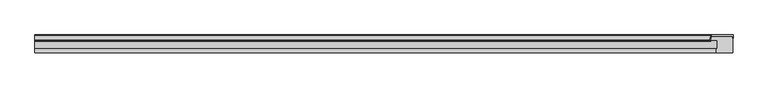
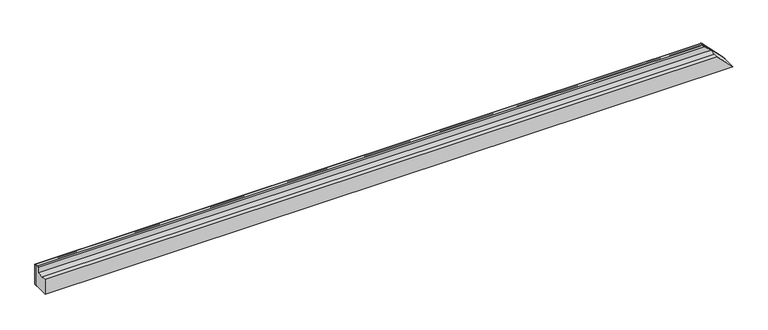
"""IFC4 building model written with IfcOpenShell, lengths in millimetres: proxy geometry, Weiku - Montante - Caixilho 02.2.01.005 : Weiku - Montante - Caixilho 02.2.01.005."""

from ifc_helpers import new_model, si_unit, frame, origin, place, context, project, spatial, polyline, circle_curve, ellipse_curve, source, transform, mapped, element, save
from ifc_brep_helpers import plane_surface, cylinder_surface, revolved_surface, advanced_brep


def generic_models_a433b7b3(model_context):
    return source(origin(), model_context, "Body", "AdvancedBrep", [
        advanced_brep(
        [(983.4663236, 4.0, 64.0336764), (982.5003978, 3.258819, 64.9996022), (978.6863753, -10.9753067, 68.8136247), (981.3909676, -14.5, 66.1090324), (981.3909676, -12.5, 66.1090324), (980.618227, -11.4929448, 66.881773), (983.1019557, -2.2235429, 64.3980443), (985.9997332, 0.0, 61.5002668), (1047.5, 0.0, 0.0), (1047.5, -6.4862095, 0.0), (1048.5, -6.4862095, -1.0), (1048.5, 4.0, -1.0), (-1047.5, 4.0, 64.0336764), (-1047.5, 4.0, -1.0), (-1047.5, 3.258819, 64.9996022), (-1047.5, -10.9753067, 68.8136247), (-1047.5, -14.5, 66.1090324), (-1047.5, -12.5, 66.1090324), (-1047.5, -11.4929448, 66.881773), (-1047.5, -2.2235429, 64.3980443), (-1047.5, 0.0, 61.5002668), (-1047.5, 0.0, 0.0), (-1047.5, -6.4862095, 0.0), (-1047.5, -6.4862095, -1.0)],
        [
            (0, 1, ellipse_curve(frame((983.4663236, 3.0, 64.0336764), z_axis=(0.7071067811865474, 0.0, 0.7071067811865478), x_axis=(-0.7071067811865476, 0.0, 0.7071067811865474)), 1.4142136, 1.0)),
            (1, 2),
            (2, 3, ellipse_curve(frame((981.3909676, -11.7, 66.1090324), z_axis=(0.7071067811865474, 0.0, 0.7071067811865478), x_axis=(-0.7071067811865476, 0.0, 0.7071067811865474)), 3.959798, 2.8)),
            (3, 4),
            (4, 5, ellipse_curve(frame((981.3909676, -11.7, 66.1090324), z_axis=(-0.7071067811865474, 0.0, -0.7071067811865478), x_axis=(0.7071067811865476, 0.0, -0.7071067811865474)), 1.1313708, 0.8)),
            (5, 6),
            (6, 7, ellipse_curve(frame((985.9997332, -3.0, 61.5002668), z_axis=(-0.7071067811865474, 0.0, -0.7071067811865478), x_axis=(0.7071067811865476, 0.0, -0.7071067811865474)), 4.2426407, 3.0)),
            (7, 8),
            (8, 9),
            (9, 10),
            (10, 11),
            (11, 0),
            (12, 0),
            (11, 13),
            (13, 12),
            (14, 1),
            (12, 14, circle_curve(frame((-1047.5, 3.0, 64.0336764), z_axis=(1.0, 0.0, 0.0), x_axis=(0.0, -1.0, 0.0)), 1.0)),
            (15, 2),
            (14, 15),
            (16, 3),
            (15, 16, circle_curve(frame((-1047.5, -11.7, 66.1090324), z_axis=(1.0, 0.0, 0.0), x_axis=(0.0, -1.0, 0.0)), 2.8)),
            (17, 4),
            (16, 17),
            (18, 5),
            (17, 18, circle_curve(frame((-1047.5, -11.7, 66.1090324), z_axis=(-1.0, 0.0, 0.0), x_axis=(0.0, -1.0, 0.0)), 0.8)),
            (19, 6),
            (18, 19),
            (20, 7),
            (19, 20, circle_curve(frame((-1047.5, -3.0, 61.5002668), z_axis=(-1.0, 0.0, 0.0), x_axis=(0.0, -1.0, 0.0)), 3.0)),
            (21, 8),
            (20, 21),
            (22, 9),
            (21, 22),
            (23, 10),
            (22, 23),
            (23, 13),
        ],
        [
            plane_surface(frame((977.5, 15.0, 70.0), z_axis=(0.7071067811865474, 0.0, 0.7071067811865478), x_axis=(0.0, -1.0, 0.0))),
            plane_surface(frame((-1047.5, 4.0, -1.0), z_axis=(0.0, 1.0, 0.0), x_axis=(1.0, 0.0, 0.0))),
            cylinder_surface(frame((-1047.5, 3.0, 64.0336764), z_axis=(-1.0, 0.0, 0.0), x_axis=(0.0, -1.0, 0.0)), 1.0),
            plane_surface(frame((-1047.5, 3.258819, 64.9996022), z_axis=(0.0, 0.25881904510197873, 0.9659258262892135), x_axis=(1.0, 0.0, 0.0))),
            cylinder_surface(frame((-1047.5, -11.7, 66.1090324), z_axis=(-1.0, 0.0, 0.0), x_axis=(0.0, -1.0, 0.0)), 2.8),
            plane_surface(frame((-1047.5, -14.5, 66.1090324), z_axis=(0.0, 0.0, -1.0), x_axis=(1.0, 0.0, 0.0))),
            revolved_surface(polyline([(982.1909675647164, -12.5, 66.1090324), (-1047.5, -12.5, 66.1090324)]), (-1047.5, -11.7, 66.1090324), (1.0, 0.0, 0.0)),
            plane_surface(frame((-1047.5, -11.4929448, 66.881773), z_axis=(0.0, -0.2588190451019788, -0.9659258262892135), x_axis=(1.0, 0.0, 0.0))),
            revolved_surface(polyline([(988.9997332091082, -6.0, 61.5002668), (-1047.5, -6.0, 61.5002668)]), (-1047.5, -3.0, 61.5002668), (1.0, 0.0, 0.0)),
            plane_surface(frame((-1047.5, 0.0, 61.5002668), z_axis=(0.0, -1.0, 0.0), x_axis=(1.0, 0.0, 0.0))),
            plane_surface(frame((-1047.5, 0.0, 0.0), z_axis=(0.0, 0.0, 1.0), x_axis=(1.0, 0.0, 0.0))),
            plane_surface(frame((-1047.5, -6.4862095, 0.0), z_axis=(0.0, -1.0, 0.0), x_axis=(1.0, 0.0, 0.0))),
            plane_surface(frame((-1047.5, -6.4862095, -1.0), z_axis=(0.0, 0.0, -1.0), x_axis=(1.0, 0.0, 0.0))),
            plane_surface(frame((-1047.5, 0.0, 0.0), z_axis=(-1.0, 0.0, 0.0), x_axis=(0.0, 0.0, 1.0))),
        ],
        [
            (0, [[1, 2, 3, 4, 5, 6, 7, 8, 9, 10, 11, 12]]),
            (1, [[13, -12, 14, 15]]),
            (2, [[16, -1, -13, 17]]),
            (3, [[18, -2, -16, 19]]),
            (4, [[20, -3, -18, 21]]),
            (5, [[22, -4, -20, 23]]),
            (6, [[24, -5, -22, 25]]),
            (7, [[26, -6, -24, 27]]),
            (8, [[28, -7, -26, 29]]),
            (9, [[30, -8, -28, 31]]),
            (10, [[32, -9, -30, 33]]),
            (11, [[34, -10, -32, 35]]),
            (12, [[-14, -11, -34, 36]]),
            (13, [[-36, -35, -33, -31, -29, -27, -25, -23, -21, -19, -17, -15]]),
        ],
    ),
        advanced_brep(
        [(-1047.5, -12.5, 46.0), (1001.5, -12.5, 46.0), (981.3909676, -12.5, 66.1090324), (-1047.5, -12.5, 66.1090324), (-1047.5, -37.8314286, 46.0), (1001.5, -37.8314286, 46.0), (-1047.5, -37.027581, 49.0), (998.5, -37.027581, 49.0), (-1047.5, -50.0, 49.0), (998.5, -50.0, 49.0), (-1047.5, -50.0, 0.0), (1047.5, -50.0, 0.0), (-1047.5, 0.0, 0.0), (1047.5, 0.0, 0.0), (-1047.5, 0.0, 61.5002668), (985.9997332, 0.0, 61.5002668), (-1047.5, -11.4929448, 66.881773), (980.618227, -11.4929448, 66.881773), (983.1019557, -2.2235429, 64.3980443), (-1047.5, -2.2235429, 64.3980443)],
        [
            (0, 1),
            (1, 2),
            (2, 3),
            (3, 0),
            (4, 5),
            (5, 1),
            (0, 4),
            (6, 7),
            (7, 5),
            (4, 6),
            (8, 9),
            (9, 7),
            (6, 8),
            (10, 11),
            (11, 9),
            (8, 10),
            (12, 13),
            (13, 11),
            (10, 12),
            (14, 15),
            (15, 13),
            (12, 14),
            (16, 17),
            (17, 18),
            (18, 19),
            (19, 16),
            (15, 18, ellipse_curve(frame((985.9997332, -3.0, 61.5002668), z_axis=(0.7071067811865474, 0.0, 0.7071067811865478), x_axis=(-0.7071067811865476, 0.0, 0.7071067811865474)), 4.2426407, 3.0)),
            (17, 2, ellipse_curve(frame((981.3909676, -11.7, 66.1090324), z_axis=(0.7071067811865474, 0.0, 0.7071067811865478), x_axis=(-0.7071067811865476, 0.0, 0.7071067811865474)), 1.1313708, 0.8)),
            (16, 3, circle_curve(frame((-1047.5, -11.7, 66.1090324), z_axis=(1.0, 0.0, 0.0), x_axis=(0.0, -1.0, 0.0)), 0.8)),
            (14, 19, circle_curve(frame((-1047.5, -3.0, 61.5002668), z_axis=(1.0, 0.0, 0.0), x_axis=(0.0, -1.0, 0.0)), 3.0)),
        ],
        [
            plane_surface(frame((-1047.5, -12.5, 66.1090324), z_axis=(0.0, -1.0, 0.0), x_axis=(1.0, 0.0, 0.0))),
            plane_surface(frame((-1047.5, -12.5, 46.0), z_axis=(0.0, 0.0, 1.0), x_axis=(1.0, 0.0, 0.0))),
            plane_surface(frame((-1047.5, -37.8314286, 46.0), z_axis=(0.0, 0.9659258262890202, -0.2588190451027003), x_axis=(1.0, 0.0, 0.0))),
            plane_surface(frame((-1047.5, -37.027581, 49.0), z_axis=(0.0, 0.0, 1.0), x_axis=(1.0, 0.0, 0.0))),
            plane_surface(frame((-1047.5, -50.0, 49.0), z_axis=(0.0, -1.0, 0.0), x_axis=(1.0, 0.0, 0.0))),
            plane_surface(frame((-1047.5, -50.0, 0.0), z_axis=(0.0, 0.0, -1.0), x_axis=(1.0, 0.0, 0.0))),
            plane_surface(frame((-1047.5, 0.0, 0.0), z_axis=(0.0, 1.0, 0.0), x_axis=(1.0, 0.0, 0.0))),
            plane_surface(frame((-1047.5, -2.2235429, 64.3980443), z_axis=(0.0, 0.2588190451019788, 0.9659258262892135), x_axis=(1.0, 0.0, 0.0))),
            plane_surface(frame((977.5, 15.0, 70.0), z_axis=(0.7071067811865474, 0.0, 0.7071067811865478), x_axis=(0.0, -1.0, 0.0))),
            cylinder_surface(frame((-1047.5, -11.7, 66.1090324), z_axis=(-1.0, 0.0, 0.0), x_axis=(0.0, -1.0, 0.0)), 0.8),
            cylinder_surface(frame((-1047.5, -3.0, 61.5002668), z_axis=(-1.0, 0.0, 0.0), x_axis=(0.0, -1.0, 0.0)), 3.0),
            plane_surface(frame((-1047.5, 0.0, 0.0), z_axis=(-1.0, 0.0, 0.0), x_axis=(0.0, 0.0, 1.0))),
        ],
        [
            (0, [[1, 2, 3, 4]]),
            (1, [[5, 6, -1, 7]]),
            (2, [[8, 9, -5, 10]]),
            (3, [[11, 12, -8, 13]]),
            (4, [[14, 15, -11, 16]]),
            (5, [[17, 18, -14, 19]]),
            (6, [[20, 21, -17, 22]]),
            (7, [[23, 24, 25, 26]]),
            (8, [[-6, -9, -12, -15, -18, -21, 27, -24, 28, -2]]),
            (9, [[-3, -28, -23, 29]]),
            (10, [[-25, -27, -20, 30]]),
            (11, [[-26, -30, -22, -19, -16, -13, -10, -7, -4, -29]]),
        ],
    ),
    ])


if __name__ == "__main__":
    model = new_model("IFC4")
    model_context = context("Model", 3, world=origin())
    ifc_project = project(units=[si_unit("LENGTHUNIT", "METRE", prefix="MILLI")], contexts=[model_context])
    site = spatial("IfcSite", under=ifc_project)
    building = spatial("IfcBuilding", under=site)
    placement = place(None, origin())
    generic_models_shape = generic_models_a433b7b3(model_context)
    element("IfcBuildingElementProxy", 1, Name="Weiku - Montante - Caixilho 02.2.01.005 : Weiku - Montante - Caixilho 02.2.01.005", ObjectType="Weiku - Montante - Caixilho 02.2.01.005 : Weiku - Montante - Caixilho 02.2.01.005", at=placement, inside=building, context=model_context, shape_type="MappedRepresentation", body=[
        mapped(generic_models_shape, transform((0.0, 0.0, 0.0), x_axis=(1.0, 0.0, 0.0), y_axis=(0.0, 1.0, 0.0), z_axis=(0.0, 0.0, 1.0))),
    ])
    save(model, "model.ifc")
